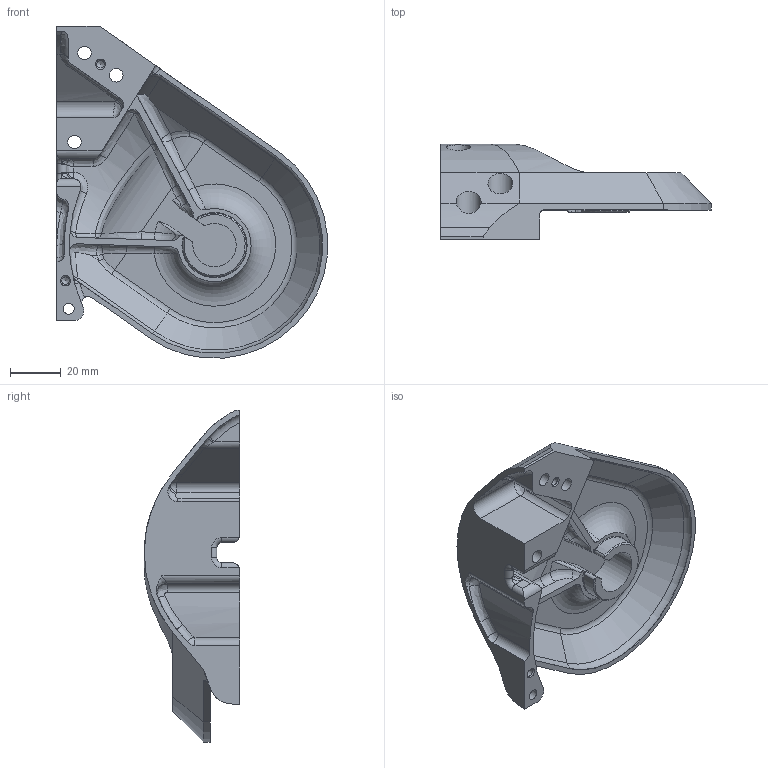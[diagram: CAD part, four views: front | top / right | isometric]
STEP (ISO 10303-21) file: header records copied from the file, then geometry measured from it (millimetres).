
FILE_DESCRIPTION(/* description */ ('STEP AP242 Edition 2','CAx-IF Rec.Pracs.---Representation and Presentation of Product Manufacturing Information (PMI)---4.0---2014-10-13','CAx-IF Rec.Pracs.---3D Tessellated Geometry---0.4---2014-09-14','2;1','CAx-IF Rec.Pracs.---User Defined Attributes---1.5---2016-08-15'),/* implementation_level */ '2;1');
FILE_NAME(/* name */ 'Assy_ForMFG - KD-D-103L_L_Hip_Yoke_Idle',/* time_stamp */ '2026-05-15T19:56:33Z',/* author */ (''),/* organization */ (''),/* preprocessor_version */ 'ST-DEVELOPER v20',/* originating_system */ 'ONSHAPE BY PTC INC, 1.215',/* authorisation */ ' ');
FILE_SCHEMA (('AP242_MANAGED_MODEL_BASED_3D_ENGINEERING_MIM_LF { 1 0 10303 442 3 1 4 }'));
Length unit declared in the file: metre
Products named in the file (1): KD-D-103L_L_Hip_Yoke_Idle
Bounding box: 106.31 x 37.45 x 130.31 mm (x, y, z)
Volume: 55145.1 mm3; surface area: 35897.2 mm2
Topology: 1 solids, 1 shells, 198 faces, 507 edges, 299 vertices
Faces by surface type: cylinder 69, bspline 54, plane 45, torus 14, sphere 9, cone 7
Full cylindrical faces by diameter (mm): 3 x2, 4.3 x1, 5.3 x3, 8.25 x1, 9.75 x3
Entity records: 6562 total; most frequent: CARTESIAN_POINT 2224, ORIENTED_EDGE 938, DIRECTION 845, EDGE_CURVE 469, AXIS2_PLACEMENT_3D 343, VERTEX_POINT 292, FACE_BOUND 225, EDGE_LOOP 223
